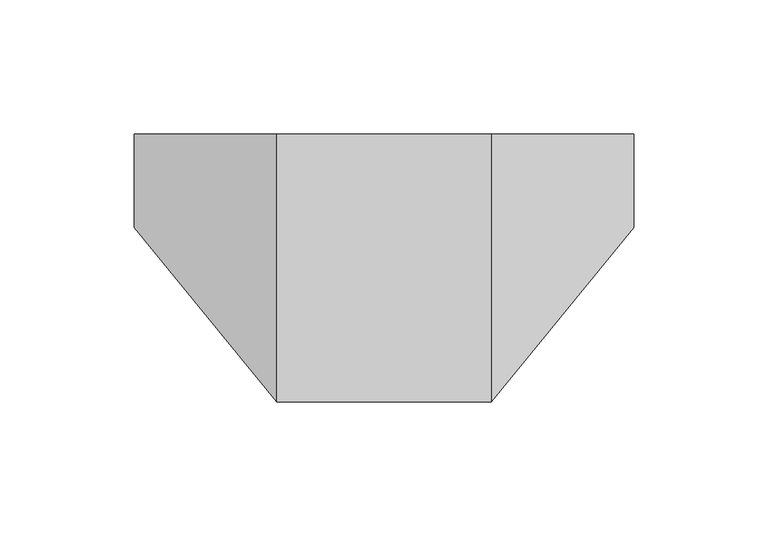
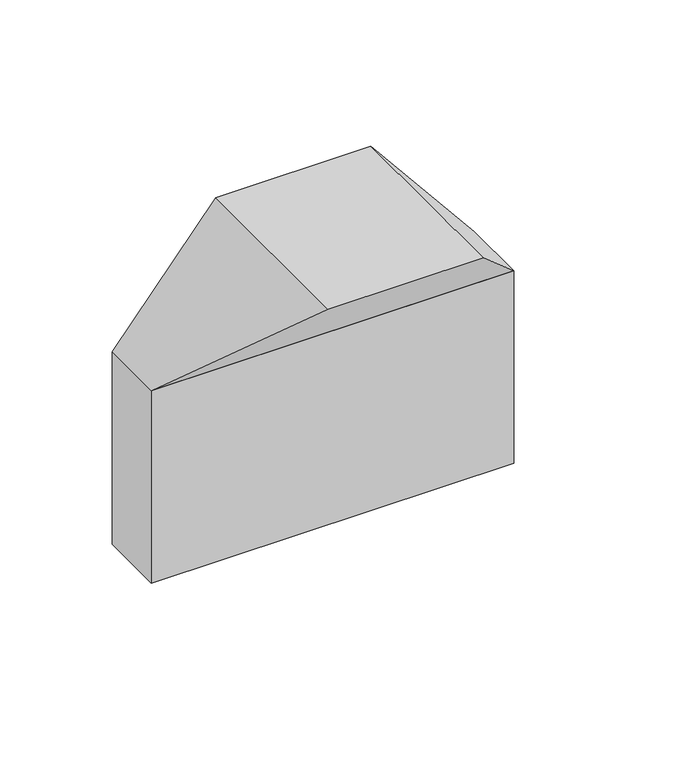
"""IFC4 building model written with IfcOpenShell, lengths in millimetres: duct fitting geometry, Отвод плоский - для перехода на кабель-канал шириной 80 мм - белый : Отвод плоский - для перехода на кабель-канал шириной 80 мм - белый."""

from ifc_helpers import new_model, si_unit, frame, origin, place, context, project, spatial, polyline, outline, extrude, faceted_brep, source, transform, mapped, element, save


def duct_fitting_1f4c8aae(model_context):
    return source(origin(), model_context, "Body", "SolidModel", [
        faceted_brep([(40.0, 85.0, 65.0), (-40.0, 85.0, 65.0), (-40.0, -15.0, 65.0), (40.0, -15.0, 65.0), (93.2693175, 85.0, 0.0), (93.2693175, 50.0, 0.0), (-93.2693175, 50.0, 0.0), (-93.2693175, 85.0, 0.0)], [[[0, 1, 2, 3]], [[4, 5, 6, 7]], [[4, 7, 1, 0]], [[7, 6, 2, 1]], [[6, 5, 3, 2]], [[5, 4, 0, 3]]]),
        extrude(outline(polyline([(93.2693175, 85.0), (93.2693175, 50.0), (-93.2693175, 50.0), (-93.2693175, 85.0), (93.2693175, 85.0)])), frame((0.0, 0.0, -105.0), z_axis=(0.0, 0.0, 1.0), x_axis=(1.0, 0.0, 0.0)), (0.0, 0.0, 1.0), 105.0),
    ])


if __name__ == "__main__":
    model = new_model("IFC4")
    model_context = context("Model", 3, world=origin())
    ifc_project = project(units=[si_unit("LENGTHUNIT", "METRE", prefix="MILLI")], contexts=[model_context])
    site = spatial("IfcSite", under=ifc_project)
    building = spatial("IfcBuilding", under=site)
    placement = place(None, origin())
    duct_fitting_shape = duct_fitting_1f4c8aae(model_context)
    element("IfcDuctFitting", 1, ObjectType="Отвод плоский - для перехода на кабель-канал шириной 80 мм - белый : Отвод плоский - для перехода на кабель-канал шириной 80 мм - белый", at=placement, inside=building, context=model_context, shape_type="MappedRepresentation", body=[
        mapped(duct_fitting_shape, transform((0.0, 0.0, 0.0), x_axis=(1.0, 0.0, 0.0), y_axis=(0.0, 1.0, 0.0), z_axis=(0.0, 0.0, 1.0))),
    ])
    save(model, "model.ifc")
